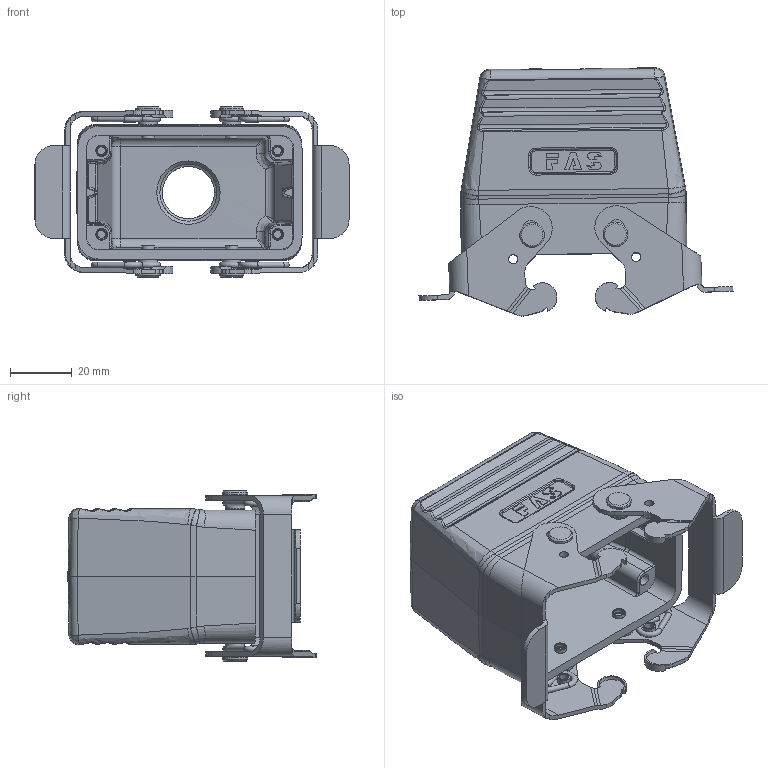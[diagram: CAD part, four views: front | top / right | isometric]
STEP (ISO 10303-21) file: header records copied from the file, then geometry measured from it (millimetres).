
FILE_DESCRIPTION (( 'STEP AP203' ), '1' );
FILE_NAME ('H10B-TBF-M20.STEP', '2023-06-06T07:53:21', ( '' ), ( '' ), 'SwSTEP 2.0', 'SolidWorks 2016', '' );
FILE_SCHEMA (( 'CONFIG_CONTROL_DESIGN' ));
Length unit declared in the file: millimetre
Products named in the file (1): H10B-TBF-M20
Bounding box: 101.6 x 80.3 x 55 mm (x, y, z)
Volume: 68573 mm3; surface area: 40386 mm2
Topology: 1 solids, 1 shells, 730 faces, 1903 edges, 1209 vertices
Faces by surface type: plane 284, cylinder 248, bspline 136, torus 33, cone 25, sphere 4
Full cylindrical faces by diameter (mm): 1.8 x4, 2.5 x4, 3 x4, 3.3 x4, 4 x10, 6 x4, 8 x4, 18.5 x2
Entity records: 31571 total; most frequent: CARTESIAN_POINT 15568, ORIENTED_EDGE 3580, DIRECTION 2850, EDGE_CURVE 1790, VERTEX_POINT 1163, AXIS2_PLACEMENT_3D 1018, EDGE_LOOP 851, VECTOR 814
